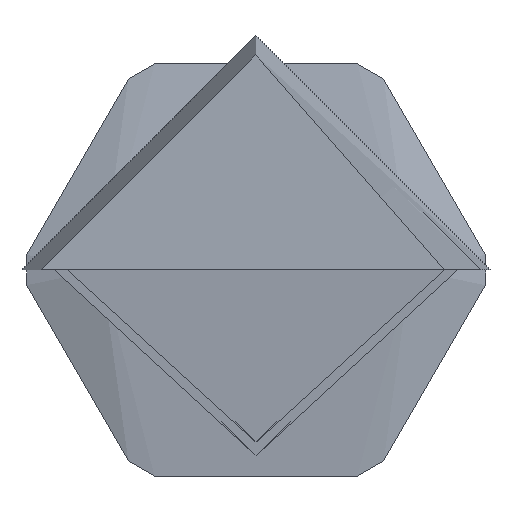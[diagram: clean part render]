
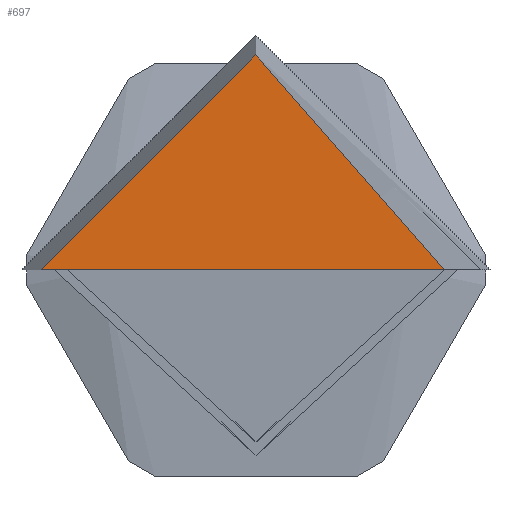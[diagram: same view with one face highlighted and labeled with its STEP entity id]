
A CAD part, left-side view. The second image highlights one B-rep face of the part: STEP entity #697.
In plain terms, the highlighted free-form (B-spline) face has degree [1, 1] with [2, 2] control points.
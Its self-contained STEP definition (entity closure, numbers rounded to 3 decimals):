
#697 = ADVANCED_FACE('',(#698,#720),#742,.T.);
#698 = FACE_BOUND('',#699,.T.);
#699 = EDGE_LOOP('',(#700,#710));
#700 = ORIENTED_EDGE('',*,*,#701,.F.);
#701 = EDGE_CURVE('',#702,#704,#706,.T.);
#702 = VERTEX_POINT('',#703);
#703 = CARTESIAN_POINT('',(0.,24.,0.));
#704 = VERTEX_POINT('',#705);
#705 = CARTESIAN_POINT('',(0.,0.,24.));
#706 = ( BOUNDED_CURVE() B_SPLINE_CURVE(2,(#707,#708,#709),
.UNSPECIFIED.,.F.,.F.) B_SPLINE_CURVE_WITH_KNOTS((3,3),(0.,
1.571),.PIECEWISE_BEZIER_KNOTS.) CURVE() 
GEOMETRIC_REPRESENTATION_ITEM() RATIONAL_B_SPLINE_CURVE((1.,
0.707,1.)) REPRESENTATION_ITEM('') );
#707 = CARTESIAN_POINT('',(0.,24.,0.));
#708 = CARTESIAN_POINT('',(0.,24.,24.));
#709 = CARTESIAN_POINT('',(0.,0.,24.));
#710 = ORIENTED_EDGE('',*,*,#711,.F.);
#711 = EDGE_CURVE('',#704,#702,#712,.T.);
#712 = ( BOUNDED_CURVE() B_SPLINE_CURVE(2,(#713,#714,#715,#716,#717,#718
,#719),.UNSPECIFIED.,.F.,.F.) B_SPLINE_CURVE_WITH_KNOTS((3,2,2,3),(
    1.571,3.142,4.712,6.283),
.UNSPECIFIED.) CURVE() GEOMETRIC_REPRESENTATION_ITEM() 
RATIONAL_B_SPLINE_CURVE((1.,0.707,1.,0.707,1.,
0.707,1.)) REPRESENTATION_ITEM('') );
#713 = CARTESIAN_POINT('',(0.,0.,24.));
#714 = CARTESIAN_POINT('',(0.,-24.,24.));
#715 = CARTESIAN_POINT('',(0.,-24.,0.));
#716 = CARTESIAN_POINT('',(0.,-24.,-24.));
#717 = CARTESIAN_POINT('',(0.,0.,-24.));
#718 = CARTESIAN_POINT('',(0.,24.,-24.));
#719 = CARTESIAN_POINT('',(0.,24.,0.));
#720 = FACE_BOUND('',#721,.T.);
#721 = EDGE_LOOP('',(#722,#734));
#722 = ORIENTED_EDGE('',*,*,#723,.T.);
#723 = EDGE_CURVE('',#724,#726,#728,.T.);
#724 = VERTEX_POINT('',#725);
#725 = CARTESIAN_POINT('',(0.,21.,0.));
#726 = VERTEX_POINT('',#727);
#727 = CARTESIAN_POINT('',(0.,-21.,0.));
#728 = ( BOUNDED_CURVE() B_SPLINE_CURVE(2,(#729,#730,#731,#732,#733),
.UNSPECIFIED.,.F.,.F.) B_SPLINE_CURVE_WITH_KNOTS((3,2,3),(0.,
1.571,3.142),.UNSPECIFIED.) CURVE() 
GEOMETRIC_REPRESENTATION_ITEM() RATIONAL_B_SPLINE_CURVE((1.,
0.707,1.,0.707,1.)) REPRESENTATION_ITEM('') );
#729 = CARTESIAN_POINT('',(0.,21.,0.));
#730 = CARTESIAN_POINT('',(0.,21.,21.));
#731 = CARTESIAN_POINT('',(0.,0.,21.));
#732 = CARTESIAN_POINT('',(0.,-21.,21.));
#733 = CARTESIAN_POINT('',(0.,-21.,0.));
#734 = ORIENTED_EDGE('',*,*,#735,.T.);
#735 = EDGE_CURVE('',#726,#724,#736,.T.);
#736 = ( BOUNDED_CURVE() B_SPLINE_CURVE(2,(#737,#738,#739,#740,#741),
.UNSPECIFIED.,.F.,.F.) B_SPLINE_CURVE_WITH_KNOTS((3,2,3),(3.142,
4.712,6.283),.PIECEWISE_BEZIER_KNOTS.) CURVE() 
GEOMETRIC_REPRESENTATION_ITEM() RATIONAL_B_SPLINE_CURVE((1.,
0.707,1.,0.707,1.)) REPRESENTATION_ITEM('') );
#737 = CARTESIAN_POINT('',(0.,-21.,0.));
#738 = CARTESIAN_POINT('',(0.,-21.,-21.));
#739 = CARTESIAN_POINT('',(0.,0.,-21.));
#740 = CARTESIAN_POINT('',(0.,21.,-21.));
#741 = CARTESIAN_POINT('',(0.,21.,0.));
#742 = B_SPLINE_SURFACE_WITH_KNOTS('',1,1,(
    (#743,#744)
    ,(#745,#746
    )),.UNSPECIFIED.,.F.,.F.,.F.,(2,2),(2,2),(-2.401,2.401),(-4.651,
    0.151),.PIECEWISE_BEZIER_KNOTS.);
#743 = CARTESIAN_POINT('',(0.,-24.01,-24.01));
#744 = CARTESIAN_POINT('',(0.,24.01,-24.01));
#745 = CARTESIAN_POINT('',(0.,-24.01,24.01));
#746 = CARTESIAN_POINT('',(0.,24.01,24.01));
